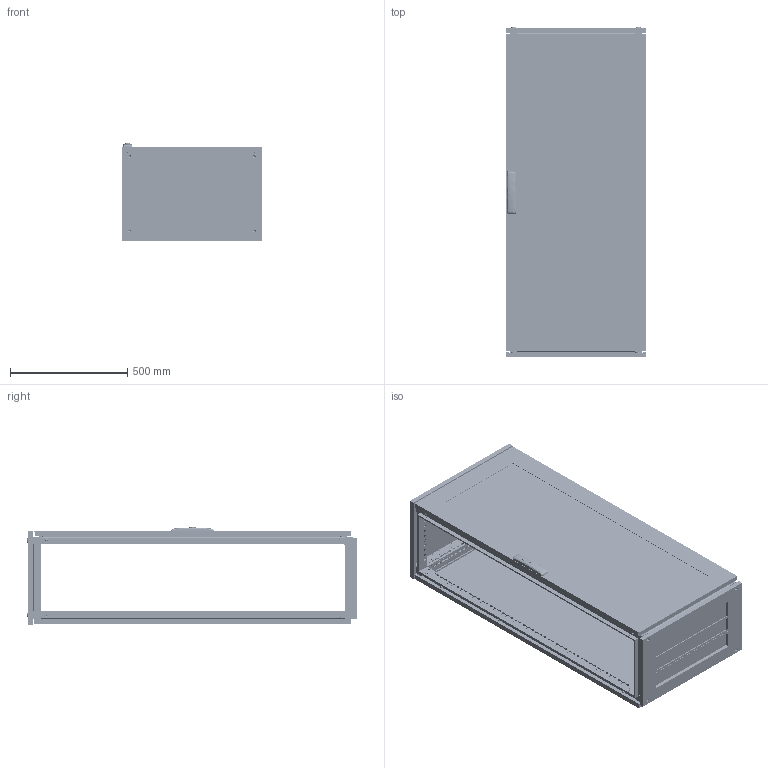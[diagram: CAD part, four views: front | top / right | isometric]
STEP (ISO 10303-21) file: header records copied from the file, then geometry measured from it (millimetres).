
FILE_DESCRIPTION (( 'STEP AP203' ), '1' );
FILE_NAME ('R5CQEN1464AX.STEP', '2025-05-07T11:17:11', ( '' ), ( '' ), 'SwSTEP 2.0', 'SolidWorks 2022', '' );
FILE_SCHEMA (( 'CONFIG_CONTROL_DESIGN' ));
Length unit declared in the file: millimetre
Products named in the file (65): Pressing stud FH-M6-12_M6x12mm; M6x10 DIN 912 HX cl.8,8 Zinc_straight; TPA.08.0083.00.00.0 simple; R5NCRE-Assem simple_R5NCRE1460; TPA.08.0084.00.00.0 simple; RB.0562.00.00.0 СБ simple_-06; PF 5x10 KTB simple_600x400; RB.2755.00.00.0 СБ simple_-12; RB.2052.00.00.0 СБ simple_-06; TPA.08.0139.00.01.0 simple; RB.2969.00.01.0 simple; RB.0562.01.01.0 simple_-06; RB.2680.00.01.0 simple; Glass CPTE_1400x0600; RB.2969.00.00.0 СБ simple; RB.2499.01.00.0 СБ simple_-11; RB.2499.00.00.0 СБ simple_-12; PF 7x14 CRE simple_1400x0600; 7 DIN 6799 Zinc simple; RB.2696.00.00.0 simple; M6x10 DIN 7500 E HX cl.5.8 Zinc_straight; RB.2455.00.00.0 simple_-02; M6x15 Erickson cl.4,8 Zinc; М6х12 A5100231_straight; RB.2528.00.00.0 simple_-02; M6 MGR-MKO-0625 simple_Thread; M6 DIN 985 cl.6,0 Zinc_straight; M6x10 DIN 7500 M Torx cl.5.8 Zinc_straight; RB.1867.01.01.0 simple_-08; RB.1633.00.01.0 simple_-02; 4.8x13 DIN 7981 PH Zinc_straight; R5NKTB - Assem simple_H=1400 R5NKTB64; Pin 4x16 DIN 7 AISI 303 (A1) simple; RB.2052.01.00.0 СБ simple_-06; RB.0528.00.01.0 simple_-02; RB.1728.00.00.0 simple_-01; TPA.08.0139.00.03.0; RB.2172.00.00.1 simple; R5CQEN1464AX; RB.0054.01.01.0 simple_-06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
Assembly tree (173 placements, depth 5):
  R5CQEN1464AX
    R5NCPTE - Assem simple_R5NCPTE1460
      RB.0562.00.00.0 СБ simple_-06
        RB.0562.01.00.0 СБ simple_-06
          RB.0562.01.01.0 simple_-06
          М6х12 A5100231_straight  x7
          RB.2702.00.00.0 simple  x4
          PF 7,5x15 CPE simple_1400x0600
          Glass CPTE_1400x0600
          Glue CPTE simple_1400x0600
        Square cap 20x20 simple  x2
        M6x15 Erickson cl.4,8 Zinc  x2
        RB.0528.00.01.0 simple_-02  x2
        ATOS Traction guide ILY03.35  x4
        RB.2357.00.00.0 simple_-03
        RB.2680.00.00.0 СБ simple
          TPA.08.0139.00.01.0 simple
          RB.2680.00.01.0 simple
          RB.2680.00.02.0 simple  x2
        TPA.08.0139.00.03.0  x2
        M6 DIN 985 cl.6,0 Zinc_straight  x4
        4,0x16 F Torx Zinc (ART 88200)_thread  x2
        RB.0528.04.00.0 СБ simple  x2
          RB.0528.04.01.0 simple
          Pressing stud FH-M6-12_M6x12mm
      M6x10 DIN 912 HX cl.8,8 Zinc_straight  x8
      4.8x13 DIN 7981 PH Zinc_straight
      7 DIN 6799 Zinc simple  x4
      RB.2968.00.00.0 simple  x4
      RB.2969.00.00.0 СБ simple  x4
        RB.2969.00.01.0 simple
        Pin 4x16 DIN 7 AISI 303 (A1) simple
        M6 MGR-MKO-0625 simple_Thread
      AC00C446-R
      RB.2696.00.00.0 simple  x4
      7 DIN 6799 Zinc  x4
    R5NCRE-Assem simple_R5NCRE1460
      RB.2052.00.00.0 СБ simple_-06
        RB.2052.01.00.0 СБ simple_-06
          RB.0054.01.01.0 simple_-06
          М6х12 A5100231_straight  x4
        PF 7x14 CRE simple_1400x0600
      RB.2172.00.00.1 simple  x8
      M6x10 DIN 7500 E HX cl.5.8 Zinc_straight  x8
      M6x10 DIN 7500 M Torx cl.5.8 Zinc_straight  x8
    R5NKMN - Assem simple_R5NKMN14 (600х400)
      RB.2528.00.00.0 simple_-02  x4
    R5NKTB - Assem simple_H=1400 R5NKTB64
      RB.2499.00.00.0 СБ simple_-12
        RB.2499.01.00.0 СБ simple_-11
          RB.1633.00.01.0 simple_-02  x2
          RB.1633.00.02.0 simple_default  x2
          PF 5x10 KTB simple_600x400
        RB.2457.00.00.0 СБ simple_-12
          RB.2455.00.00.0 simple_-02  x2
          RB.2456.00.00.0 simple  x2
          TPA.08.0084.00.00.0 simple  x2
          TPA.08.0083.00.00.0 simple  x2
          M8x12 AC00C476 cl.8,8 Zinc_stright  x4
        RB.1728.00.00.0 simple_-01  x3
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Bounding box: 600 x 1413.3 x 414.74 mm (x, y, z)
Volume: 10948182.4 mm3; surface area: 9429419.3 mm2
Topology: 176 solids, 192 shells, 18445 faces, 51823 edges, 34019 vertices
Faces by surface type: plane 10523, cylinder 6381, cone 704, bspline 435, torus 368, sphere 34
Entity records: 188861 total; most frequent: CARTESIAN_POINT 49191, ORIENTED_EDGE 27442, DIRECTION 25887, EDGE_CURVE 13747, VERTEX_POINT 9082, AXIS2_PLACEMENT_3D 8673, LINE 8541, VECTOR 8541
